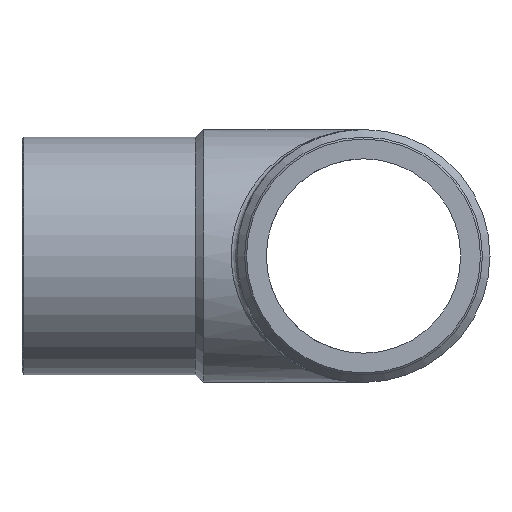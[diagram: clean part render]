
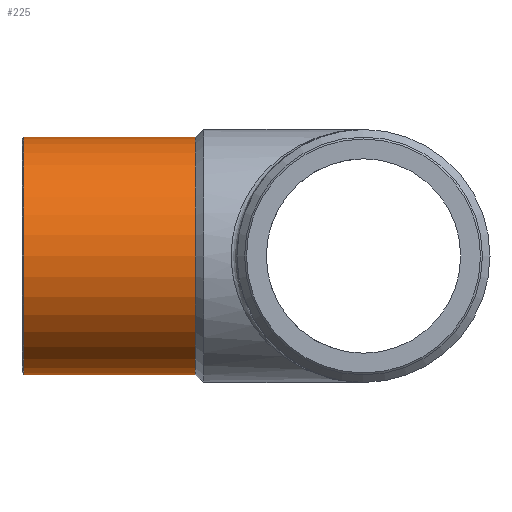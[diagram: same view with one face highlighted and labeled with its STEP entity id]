
A CAD part, left-side view. The second image highlights one B-rep face of the part: STEP entity #225.
In plain terms, the highlighted cylindrical face has radius 62.5 mm (diameter 125 mm), a full revolution.
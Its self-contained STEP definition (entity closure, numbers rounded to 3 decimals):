
#44=CIRCLE('',#275,62.5);
#45=CIRCLE('',#277,62.5);
#76=ORIENTED_EDGE('',*,*,#108,.T.);
#77=ORIENTED_EDGE('',*,*,#107,.F.);
#107=EDGE_CURVE('',#126,#126,#44,.T.);
#108=EDGE_CURVE('',#127,#127,#45,.F.);
#126=VERTEX_POINT('',#407);
#127=VERTEX_POINT('',#410);
#160=EDGE_LOOP('',(#76));
#161=EDGE_LOOP('',(#77));
#196=FACE_BOUND('',#160,.T.);
#197=FACE_BOUND('',#161,.T.);
#212=CYLINDRICAL_SURFACE('',#276,62.5);
#225=ADVANCED_FACE('',(#196,#197),#212,.T.);
#275=AXIS2_PLACEMENT_3D('',#406,#345,#346);
#276=AXIS2_PLACEMENT_3D('',#408,#347,#348);
#277=AXIS2_PLACEMENT_3D('',#409,#349,#350);
#345=DIRECTION('',(0.,-1.,0.));
#346=DIRECTION('',(1.,0.,0.));
#347=DIRECTION('',(0.,-1.,0.));
#348=DIRECTION('',(1.,0.,0.));
#349=DIRECTION('',(0.,1.,0.));
#350=DIRECTION('',(-1.,0.,0.));
#406=CARTESIAN_POINT('',(0.,88.5,0.));
#407=CARTESIAN_POINT('',(62.5,88.5,0.));
#408=CARTESIAN_POINT('',(0.,0.,0.));
#409=CARTESIAN_POINT('',(0.,178.5,0.));
#410=CARTESIAN_POINT('',(-62.5,178.5,0.));
